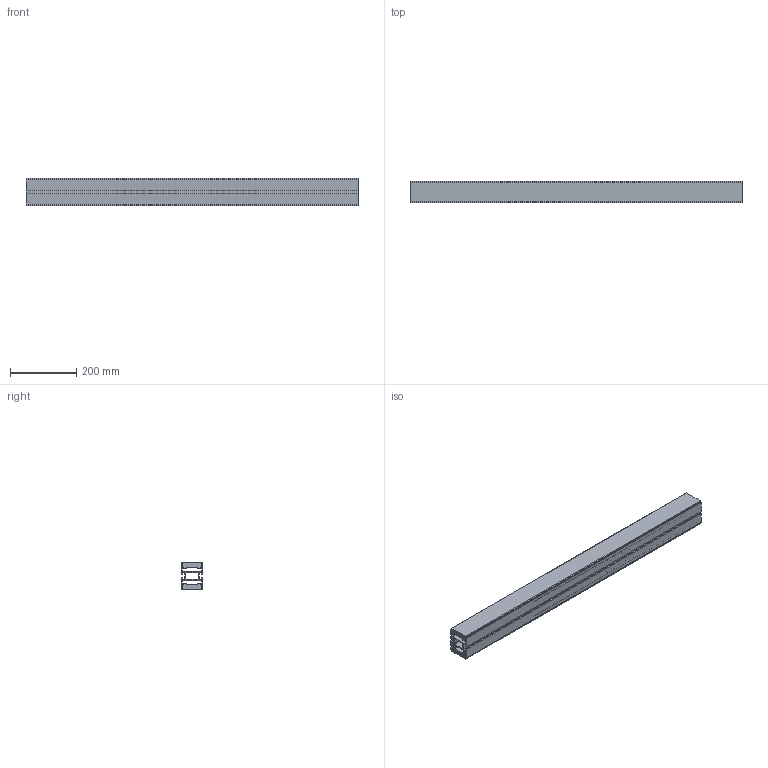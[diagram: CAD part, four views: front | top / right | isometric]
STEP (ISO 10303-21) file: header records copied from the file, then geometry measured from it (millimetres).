
FILE_DESCRIPTION (( 'STEP AP214' ), '1' );
FILE_NAME ('924172 CS065SL Baansectie recht 1000mm.STEP', '2017-12-20T16:22:02', ( '' ), ( '' ), 'SwSTEP 2.0', 'SolidWorks 2017', '' );
FILE_SCHEMA (( 'AUTOMOTIVE_DESIGN' ));
Length unit declared in the file: millimetre
Products named in the file (1): 924172 CS065SL Baansectie recht 1000mm
Bounding box: 1000 x 65 x 84 mm (x, y, z)
Volume: 2794164.2 mm3; surface area: 941370 mm2
Topology: 1 solids, 1 shells, 168 faces, 498 edges, 332 vertices
Faces by surface type: plane 98, cylinder 70
Entity records: 5688 total; most frequent: CARTESIAN_POINT 999, ORIENTED_EDGE 996, DIRECTION 976, EDGE_CURVE 498, LINE 358, VECTOR 358, VERTEX_POINT 332, AXIS2_PLACEMENT_3D 309
